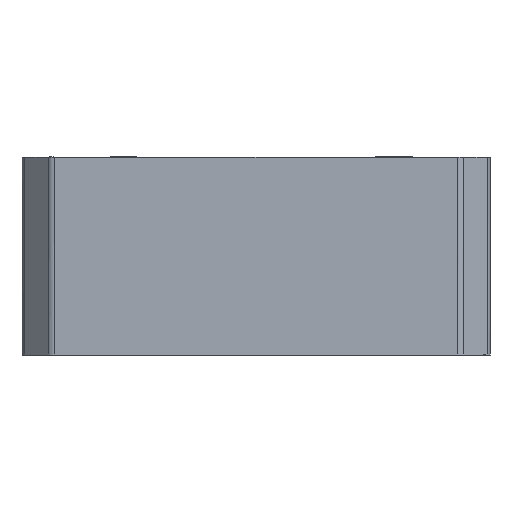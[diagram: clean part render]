
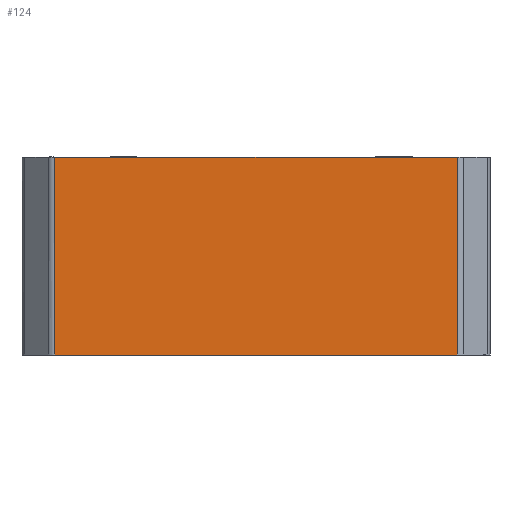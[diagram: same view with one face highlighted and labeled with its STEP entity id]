
A CAD part, left-side view. The second image highlights one B-rep face of the part: STEP entity #124.
In plain terms, the highlighted planar face has unit normal (-1, 0, 0).
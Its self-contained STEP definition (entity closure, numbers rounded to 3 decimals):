
#124=ADVANCED_FACE('',(#787),#10568,.T.);
#787=FACE_OUTER_BOUND('',#1471,.T.);
#1471=EDGE_LOOP('',(#2455,#2456,#2457,#2458));
#2455=ORIENTED_EDGE('',*,*,#5928,.F.);
#2456=ORIENTED_EDGE('',*,*,#5950,.T.);
#2457=ORIENTED_EDGE('',*,*,#5920,.F.);
#2458=ORIENTED_EDGE('',*,*,#5951,.T.);
#5920=EDGE_CURVE('',#9534,#9535,#7688,.T.);
#5928=EDGE_CURVE('',#9551,#9552,#7696,.T.);
#5950=EDGE_CURVE('',#9551,#9535,#7718,.T.);
#5951=EDGE_CURVE('',#9534,#9552,#7719,.T.);
#7688=B_SPLINE_CURVE_WITH_KNOTS('',1,(#14875,#14876),.UNSPECIFIED.,.F.,
 .F.,(2,2),(0.,22.351),.UNSPECIFIED.);
#7696=B_SPLINE_CURVE_WITH_KNOTS('',1,(#14891,#14892),.UNSPECIFIED.,.F.,
 .F.,(2,2),(0.,22.351),.UNSPECIFIED.);
#7718=B_SPLINE_CURVE_WITH_KNOTS('',1,(#14935,#14936),.UNSPECIFIED.,.F.,
 .F.,(2,2),(0.,11.),.UNSPECIFIED.);
#7719=B_SPLINE_CURVE_WITH_KNOTS('',1,(#14937,#14938),.UNSPECIFIED.,.F.,
 .F.,(2,2),(0.,11.),.UNSPECIFIED.);
#9534=VERTEX_POINT('',#14032);
#9535=VERTEX_POINT('',#14033);
#9551=VERTEX_POINT('',#14049);
#9552=VERTEX_POINT('',#14050);
#10568=PLANE('',#11251);
#11251=AXIS2_PLACEMENT_3D('',#13007,#11823,$);
#11823=DIRECTION('',(-1.,0.,0.));
#13007=CARTESIAN_POINT('',(-19.397,28.074,79.951));
#14032=CARTESIAN_POINT('',(-19.397,25.838,78.85));
#14033=CARTESIAN_POINT('',(-19.397,3.487,78.85));
#14049=CARTESIAN_POINT('',(-19.397,3.487,67.85));
#14050=CARTESIAN_POINT('',(-19.397,25.838,67.85));
#14875=CARTESIAN_POINT('',(-19.397,25.838,78.85));
#14876=CARTESIAN_POINT('',(-19.397,3.487,78.85));
#14891=CARTESIAN_POINT('',(-19.397,3.487,67.85));
#14892=CARTESIAN_POINT('',(-19.397,25.838,67.85));
#14935=CARTESIAN_POINT('',(-19.397,3.487,67.85));
#14936=CARTESIAN_POINT('',(-19.397,3.487,78.85));
#14937=CARTESIAN_POINT('',(-19.397,25.838,78.85));
#14938=CARTESIAN_POINT('',(-19.397,25.838,67.85));
